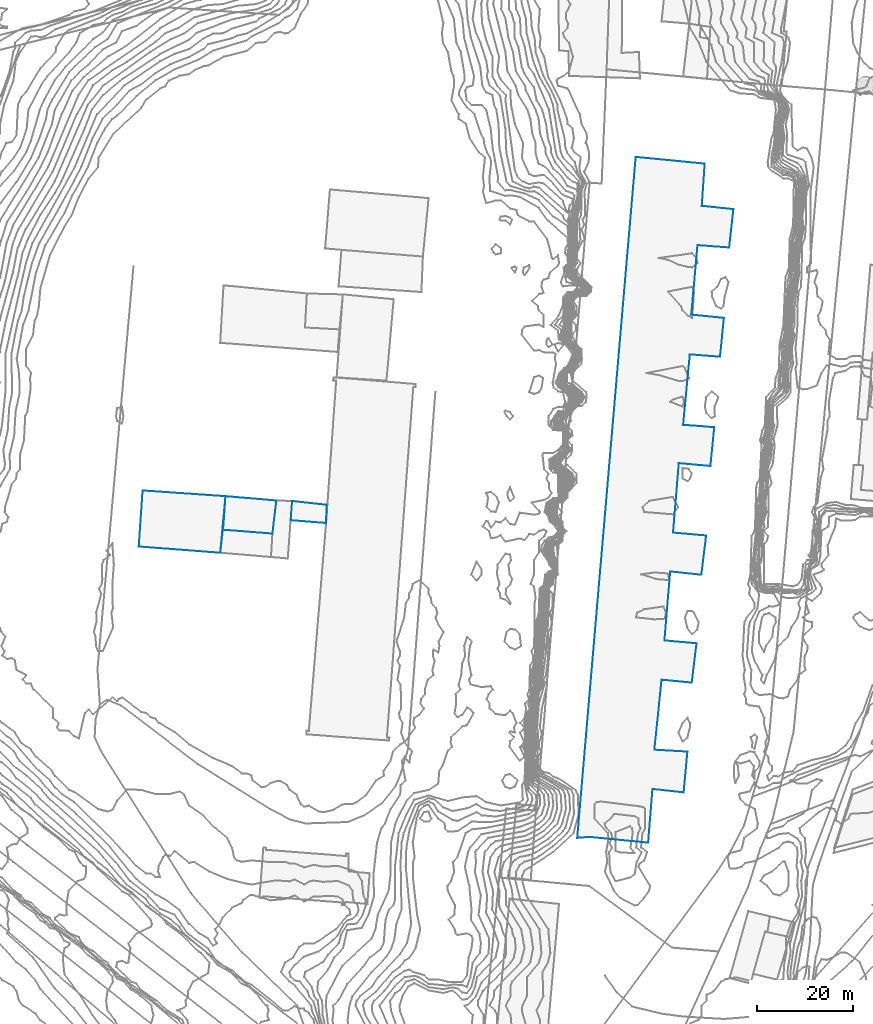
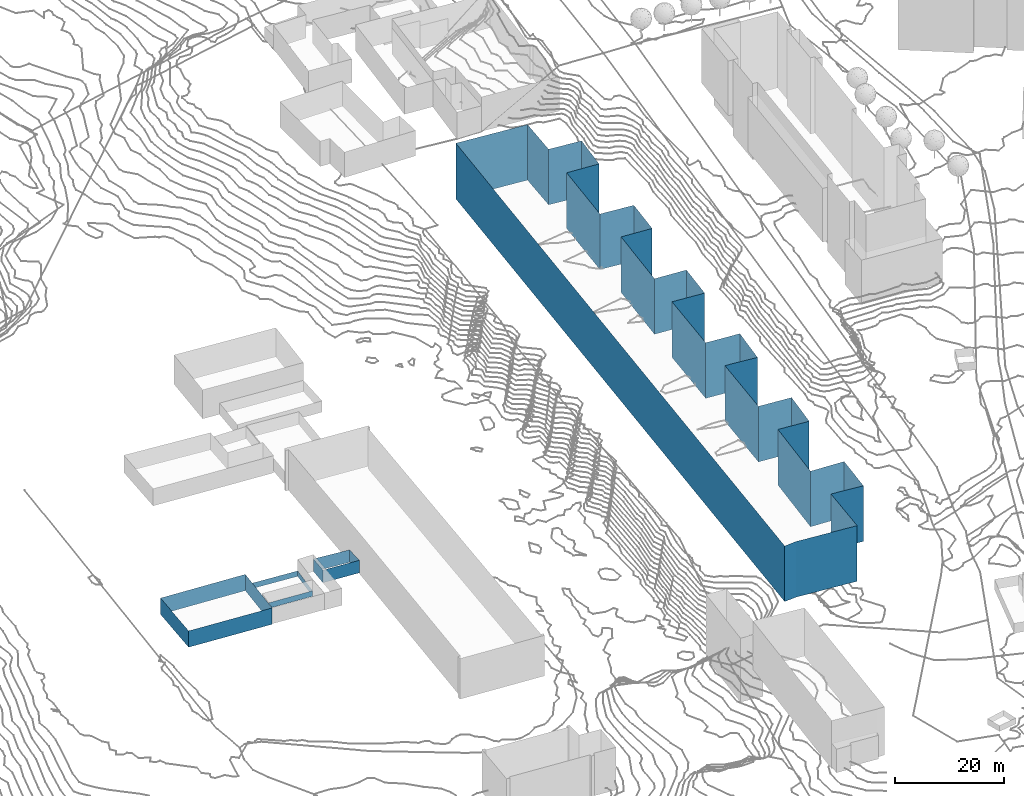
# Not in any storey, part 51 of 419: 4 walls.
"""IFC2X3 model written with IfcOpenShell, lengths in metres."""

from ifc_helpers import new_model, si_unit, frame, origin_with_axes, place, context, subcontext, project, faceted_brep, element, save


model = new_model("IFC2X3")

# Units and contexts
model_context = context("Model", 3, precision=1e-05, world=origin_with_axes())
body_context = subcontext(model_context, "Body", "Model", "MODEL_VIEW")
ifc_project = project(units=[si_unit("AREAUNIT", "SQUARE_METRE"), si_unit("LENGTHUNIT", "METRE")], contexts=[model_context])

# Walls
wall_1_placement = place(None, frame((746.2920204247, 704.1976909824, 71.3820022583), z_axis=(0.0, 0.0, 1.0), x_axis=(1.0, 0.0, 0.0)))
element("IfcWall", 1, at=wall_1_placement, Name="Mur 0", context=body_context, shape_type="Brep", body=[
    faceted_brep([(7.5, 3.2000000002, 2.8179977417), (7.4, -0.5999999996, 2.8179977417), (7.5, 3.2000000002, 0.0), (7.4, -0.5999999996, 0.0), (0.3, 4.0, 2.8179977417), (0.3, 4.0, 0.0), (0.0, 0.0, 2.8179977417), (0.0, 0.0, 0.0)], [[[0, 1, 2]], [[2, 1, 3]], [[4, 0, 5]], [[5, 0, 2]], [[1, 6, 3]], [[3, 6, 7]], [[6, 4, 7]], [[7, 4, 5]]]),
])
wall_2_placement = place(None, frame((806.0920204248, 637.8976909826, 86.408400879), z_axis=(0.0, 0.0, 1.0), x_axis=(1.0, 0.0, 0.0)))
element("IfcWall", 2, at=wall_2_placement, Name="Mur 0", context=body_context, shape_type="Brep", body=[
    faceted_brep([(12.2, 142.0999999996, 12.491599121), (26.6, 140.7000000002, 12.491599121), (12.2, 142.0999999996, 0.0), (26.6, 140.7000000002, 0.0), (0.0, 0.0, 12.491599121), (0.0, 0.0, 0.0), (2.5, 0.2000000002, 12.491599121), (2.5, 0.2000000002, 0.0), (14.8, -1.0, 12.491599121), (14.8, -1.0, 0.0), (15.7, 10.2000000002, 12.491599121), (15.7, 10.2000000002, 0.0), (22.2, 9.5, 12.491599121), (22.2, 9.5, 0.0), (23.0, 18.0, 12.491599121), (23.0, 18.0, 0.0), (16.1, 18.4000000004, 12.491599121), (16.1, 18.4000000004, 0.0), (17.6, 33.0, 12.491599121), (17.6, 33.0, 0.0), (23.9, 32.4000000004, 12.491599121), (23.9, 32.4000000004, 0.0), (24.9, 40.5999999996, 12.491599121), (24.9, 40.5999999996, 0.0), (18.2, 41.2000000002, 12.491599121), (18.2, 41.2000000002, 0.0), (19.4, 55.5999999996, 12.491599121), (19.4, 55.5999999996, 0.0), (25.9, 54.9000000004, 12.491599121), (25.9, 54.9000000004, 0.0), (26.9, 63.0999999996, 12.491599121), (26.9, 63.0999999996, 0.0), (20.0, 63.7000000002, 12.491599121), (20.0, 63.7000000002, 0.0), (21.2, 78.2000000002, 12.491599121), (21.2, 78.2000000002, 0.0), (27.8, 77.5999999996, 12.491599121), (27.8, 77.5999999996, 0.0), (28.6, 85.7000000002, 12.491599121), (28.6, 85.7000000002, 0.0), (22.1, 86.2000000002, 12.491599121), (22.1, 86.2000000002, 0.0), (23.5, 100.9000000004, 12.491599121), (23.5, 100.9000000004, 0.0), (29.8, 100.4000000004, 12.491599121), (29.8, 100.4000000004, 0.0), (30.6, 108.5, 12.491599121), (30.6, 108.5, 0.0), (23.8, 109.2000000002, 12.491599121), (23.8, 109.2000000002, 0.0), (25.1, 123.7000000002, 12.491599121), (25.1, 123.7000000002, 0.0), (31.7, 123.2000000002, 12.491599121), (31.7, 123.2000000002, 0.0), (32.6, 131.2000000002, 12.491599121), (32.6, 131.2000000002, 0.0), (26.0, 131.9000000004, 12.491599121), (26.0, 131.9000000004, 0.0)], [[[0, 1, 2]], [[2, 1, 3]], [[4, 0, 5]], [[5, 0, 2]], [[6, 4, 7]], [[7, 4, 5]], [[8, 6, 9]], [[9, 6, 7]], [[10, 8, 11]], [[11, 8, 9]], [[12, 10, 13]], [[13, 10, 11]], [[14, 12, 15]], [[15, 12, 13]], [[16, 14, 17]], [[17, 14, 15]], [[18, 16, 19]], [[19, 16, 17]], [[20, 18, 21]], [[21, 18, 19]], [[22, 20, 23]], [[23, 20, 21]], [[24, 22, 25]], [[25, 22, 23]], [[26, 24, 27]], [[27, 24, 25]], [[28, 26, 29]], [[29, 26, 27]], [[30, 28, 31]], [[31, 28, 29]], [[32, 30, 33]], [[33, 30, 31]], [[34, 32, 35]], [[35, 32, 33]], [[36, 34, 37]], [[37, 34, 35]], [[38, 36, 39]], [[39, 36, 37]], [[40, 38, 41]], [[41, 38, 39]], [[42, 40, 43]], [[43, 40, 41]], [[44, 42, 45]], [[45, 42, 43]], [[46, 44, 47]], [[47, 44, 45]], [[48, 46, 49]], [[49, 46, 47]], [[50, 48, 51]], [[51, 48, 49]], [[52, 50, 53]], [[53, 50, 51]], [[54, 52, 55]], [[55, 52, 53]], [[1, 56, 3]], [[3, 56, 57]], [[56, 54, 57]], [[57, 54, 55]]]),
])
wall_3_placement = place(None, frame((732.1920204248, 702.1976909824, 71.3740007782), z_axis=(0.0, 0.0, 1.0), x_axis=(1.0, 0.0, 0.0)))
element("IfcWall", 3, at=wall_3_placement, Name="Mur 0", context=body_context, shape_type="Brep", body=[
    faceted_brep([(0.5, 7.0, 1.2259992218), (11.1, 6.1000000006, 1.2259992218), (0.5, 7.0, 0.0), (11.1, 6.1000000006, 0.0), (0.0, 0.0, 1.2259992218), (0.0, 0.0, 0.0), (10.3, -0.7999999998, 1.2259992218), (10.3, -0.7999999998, 0.0)], [[[0, 1, 2]], [[2, 1, 3]], [[4, 0, 5]], [[5, 0, 2]], [[1, 6, 3]], [[3, 6, 7]], [[6, 4, 7]], [[7, 4, 5]]]),
])
wall_4_placement = place(None, frame((714.5920204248, 698.6976909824, 71.333996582), z_axis=(0.0, 0.0, 1.0), x_axis=(1.0, 0.0, 0.0)))
element("IfcWall", 4, at=wall_4_placement, Name="Mur 0", context=body_context, shape_type="Brep", body=[
    faceted_brep([(18.1, 10.5, 3.666003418), (17.0, -1.2999999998, 3.666003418), (18.1, 10.5, 0.0), (17.0, -1.2999999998, 0.0), (0.8, 11.7000000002, 3.666003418), (0.8, 11.7000000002, 0.0), (0.0, 0.0, 3.666003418), (0.0, 0.0, 0.0)], [[[0, 1, 2]], [[2, 1, 3]], [[4, 0, 5]], [[5, 0, 2]], [[1, 6, 3]], [[3, 6, 7]], [[6, 4, 7]], [[7, 4, 5]]]),
])

save(model, "model.ifc")
